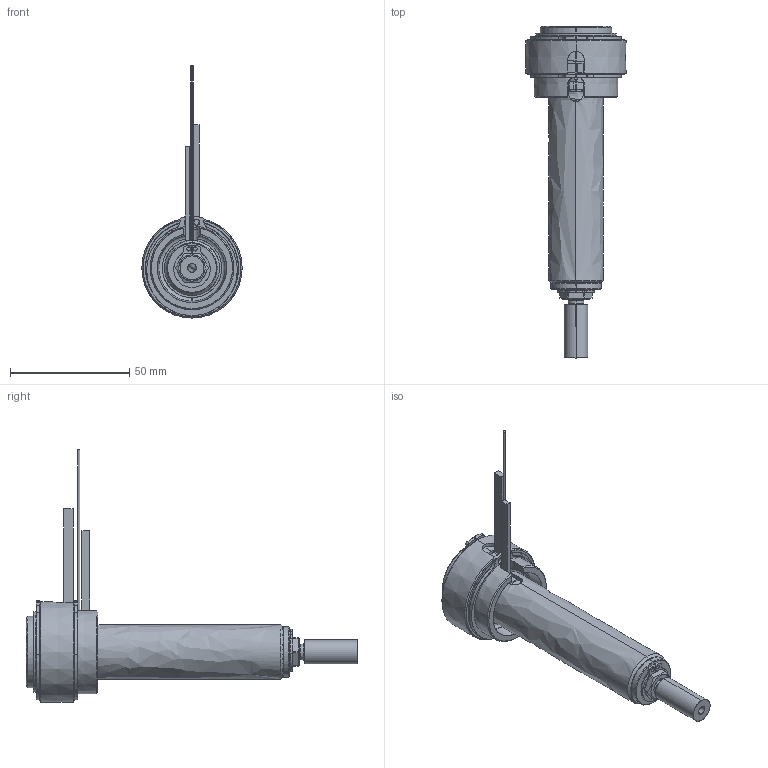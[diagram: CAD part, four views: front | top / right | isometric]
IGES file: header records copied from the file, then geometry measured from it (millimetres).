
Start section: SolidWorks IGES file using analytic representation for surfaces
Global section: file name: C:\Users\luca.EMPAD\Desktop\TEM\UGBE3502-M-A-P-3 [Ød-1.0 P-20 ØC-6.0].IGS; native system: SolidWorks 2012; preprocessor: SolidWorks 2012; author: luca; date: 120330.135515; units: millimetre
Bounding box: 42 x 139 x 105.6 mm (x, y, z)
Surface area: 28390.3 mm2 (no closed solid volume)
Topology: 0 solids, 0 shells, 181 faces, 3170 edges, 3170 vertices
Faces by surface type: revolution 116, bspline 65
